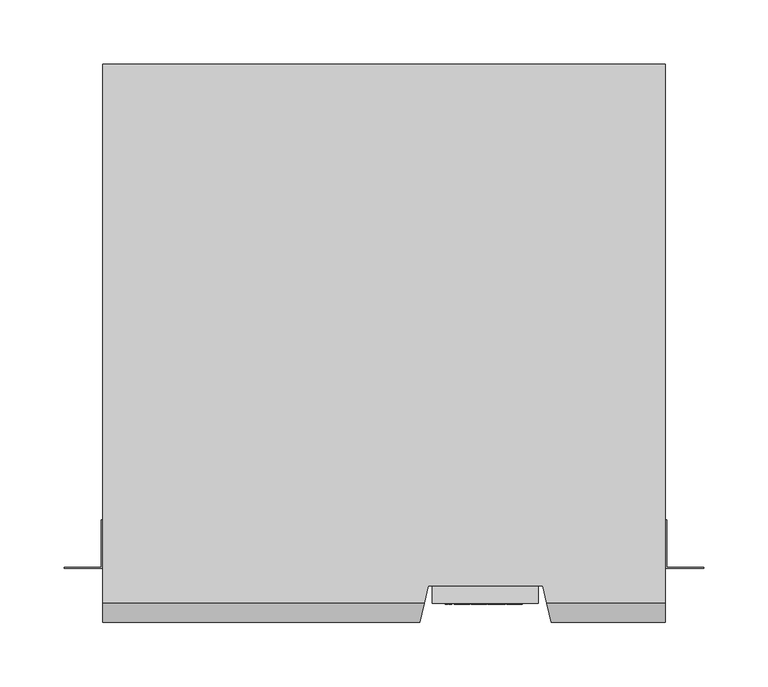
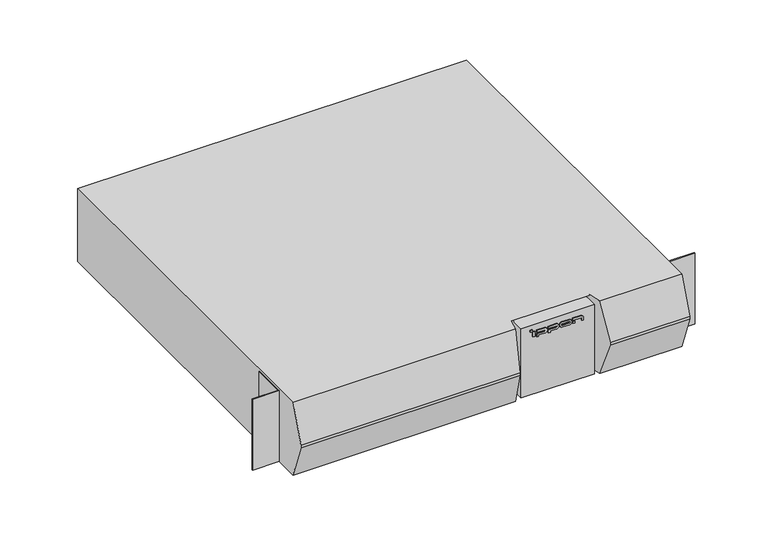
"""IFC4 building model written with IfcOpenShell, lengths in millimetres: proxy geometry, IPPON_ИБП_Innova RT_1000_1500_2000_3000ВА : INNOVA RT 1000 ВА."""

from ifc_helpers import new_model, si_unit, point, frame, frame_2d, origin, place, context, project, spatial, polyline, circle_curve, trimmed, segment, composite_curve, outline, extrude, faceted_brep, source, transform, mapped, element, save


def electrical_equipment_19148581(model_context):
    return source(origin(), model_context, "Body", "SolidModel", [
        extrude(outline(polyline([(49.8281867, 14.0), (47.8281867, 14.0), (47.8281867, 15.0), (49.8281867, 15.0), (49.8281867, 14.0)])), frame((0.0, 0.0, 78.9695835), z_axis=(0.0, 0.0, 1.0), x_axis=(1.0, 0.0, 0.0)), (0.0, 0.0, 1.0), 2.3),
        extrude(outline(polyline([(97.6035474, 14.0), (95.6035474, 14.0), (95.6035474, 15.0), (97.6035474, 15.0), (97.6035474, 14.0)])), frame((0.0, 0.0, 72.9695835), z_axis=(0.0, 0.0, 1.0), x_axis=(1.0, 0.0, 0.0)), (0.0, 0.0, 1.0), 2.2268231),
        extrude(outline(polyline([(52.561435, 14.0), (50.5166676, 14.0), (50.5166676, 15.0), (52.561435, 15.0), (52.561435, 14.0)])), frame((0.0, 0.0, 72.9695835), z_axis=(0.0, 0.0, 1.0), x_axis=(1.0, 0.0, 0.0)), (0.0, 0.0, 1.0), 6.0),
        extrude(outline(composite_curve([segment(polyline([(76.7071435, 54.7758891), (76.7071435, 64.0076464)]), True, "CONTINUOUS"), segment(trimmed(circle_curve(frame_2d((75.8506642, 64.0076464)), 0.8564793), [point((76.7071435, 64.0076464))], [point((74.9941849, 64.0076464))], True, "CARTESIAN"), True, "CONTINUOUS"), segment(polyline([(74.9941849, 64.0076464), (74.9941849, 54.7758891), (71.5036803, 54.7758891), (71.5036803, 56.7758891), (72.9695835, 56.7758891), (72.9695835, 63.8513964)]), True, "CONTINUOUS"), segment(trimmed(circle_curve(frame_2d((75.9695835, 63.8513964)), 3.0), [point((72.9695835, 63.8513964))], [point((78.9695835, 63.8513964))], False, "CARTESIAN"), True, "CONTINUOUS"), segment(polyline([(78.9695835, 63.8513964), (78.9695835, 54.7758891), (76.7071435, 54.7758891)]), True, "CONTINUOUS")], self_intersect=False)), frame((0.0, 14.0, 0.0), z_axis=(0.0, 1.0, 0.0), x_axis=(0.0, 0.0, 1.0)), (0.0, 0.0, 1.0), 1.0),
        extrude(outline(composite_curve([segment(polyline([(76.7071435, 67.9828909), (76.7071435, 77.2146482)]), True, "CONTINUOUS"), segment(trimmed(circle_curve(frame_2d((75.8506642, 77.2146482)), 0.8564793), [point((76.7071435, 77.2146482))], [point((74.9941849, 77.2146482))], True, "CARTESIAN"), True, "CONTINUOUS"), segment(polyline([(74.9941849, 77.2146482), (74.9941849, 67.9828909), (71.5036803, 67.9828909), (71.5036803, 69.9828909), (72.9695835, 69.9828909), (72.9695835, 77.0583982)]), True, "CONTINUOUS"), segment(trimmed(circle_curve(frame_2d((75.9695835, 77.0583982)), 3.0), [point((72.9695835, 77.0583982))], [point((78.9695835, 77.0583982))], False, "CARTESIAN"), True, "CONTINUOUS"), segment(polyline([(78.9695835, 77.0583982), (78.9695835, 67.9828909), (76.7071435, 67.9828909)]), True, "CONTINUOUS")], self_intersect=False)), frame((0.0, 14.0, 0.0), z_axis=(0.0, 1.0, 0.0), x_axis=(0.0, 0.0, 1.0)), (0.0, 0.0, 1.0), 1.0),
        extrude(outline(composite_curve([segment(trimmed(circle_curve(frame_2d((75.9695835, 91.558657)), 3.0), [point((72.9695835, 91.558657))], [point((78.9695835, 91.558657))], False, "CARTESIAN"), True, "CONTINUOUS"), segment(polyline([(78.9695835, 91.558657), (78.9695835, 83.958657)]), True, "CONTINUOUS"), segment(trimmed(circle_curve(frame_2d((75.9695835, 83.958657)), 3.0), [point((78.9695835, 83.958657))], [point((72.9695835, 83.958657))], False, "CARTESIAN"), True, "CONTINUOUS"), segment(polyline([(72.9695835, 83.958657), (72.9695835, 91.558657)]), True, "CONTINUOUS")], self_intersect=False), holes=[composite_curve([segment(polyline([(74.9941849, 91.714907), (74.9941849, 83.802407)]), True, "CONTINUOUS"), segment(trimmed(circle_curve(frame_2d((75.8506642, 83.802407)), 0.8564793), [point((74.9941849, 83.802407))], [point((76.7071435, 83.802407))], True, "CARTESIAN"), True, "CONTINUOUS"), segment(polyline([(76.7071435, 83.802407), (76.7071435, 91.714907)]), True, "CONTINUOUS"), segment(trimmed(circle_curve(frame_2d((75.8506642, 91.714907)), 0.8564793), [point((76.7071435, 91.714907))], [point((74.9941849, 91.714907))], True, "CARTESIAN"), True, "CONTINUOUS")], self_intersect=False)]), frame((0.0, 14.0, 0.0), z_axis=(0.0, 1.0, 0.0), x_axis=(0.0, 0.0, 1.0)), (0.0, 0.0, 1.0), 1.0),
        extrude(outline(composite_curve([segment(polyline([(76.7071435, 95.6035474), (76.7071435, 104.8353046)]), True, "CONTINUOUS"), segment(trimmed(circle_curve(frame_2d((75.8506642, 104.8353046)), 0.8564793), [point((76.7071435, 104.8353046))], [point((75.8506642, 105.6917839))], True, "CARTESIAN"), True, "CONTINUOUS"), segment(polyline([(75.8506642, 105.6917839), (72.9695835, 105.6917839), (72.9695835, 107.6317921), (76.5, 107.6317921)]), True, "CONTINUOUS"), segment(trimmed(circle_curve(frame_2d((75.9695835, 104.6790546)), 3.0), [point((76.5, 107.6317921))], [point((78.9695835, 104.6790546))], False, "CARTESIAN"), True, "CONTINUOUS"), segment(polyline([(78.9695835, 104.6790546), (78.9695835, 95.6035474), (76.7071435, 95.6035474)]), True, "CONTINUOUS")], self_intersect=False)), frame((0.0, 14.0, 0.0), z_axis=(0.0, 1.0, 0.0), x_axis=(0.0, 0.0, 1.0)), (0.0, 0.0, 1.0), 1.0),
        extrude(outline(polyline([(120.25, 15.0), (37.75, 15.0), (37.75, 43.0), (120.25, 43.0), (120.25, 15.0)])), frame((0.0, 0.0, 4.0), z_axis=(0.0, 0.0, 1.0), x_axis=(1.0, 0.0, 0.0)), (0.0, 0.0, 1.0), 82.5),
        faceted_brep([(219.0, 0.0, 43.75), (219.0, 0.0, 46.75), (130.25, 0.0, 46.75), (130.25, 0.0, 43.75), (-219.0, 0.0, 46.75), (-219.0, 0.0, 43.75), (27.75, 0.0, 43.75), (27.75, 0.0, 46.75), (219.0, 15.0, 2.0), (219.0, 435.0, 2.0), (219.0, 435.0, 88.5), (219.0, 15.0, 88.5), (126.7616279, 15.0, 88.5), (-219.0, 15.0, 88.5), (31.2383721, 15.0, 88.5), (-219.0, 435.0, 88.5), (-219.0, 435.0, 2.0), (-219.0, 15.0, 2.0), (126.7616279, 15.0, 2.0), (31.2383721, 15.0, 2.0), (120.25, 43.0, 86.5), (37.75, 43.0, 86.5), (37.75, 43.0, 4.0), (120.25, 43.0, 4.0), (122.25, 34.4, 2.0), (123.5833333, 28.6666667, 88.5), (35.75, 34.4, 2.0), (34.4166667, 28.6666667, 88.5)], [[[0, 1, 2, 3]], [[4, 5, 6, 7]], [[1, 0, 8, 9, 10, 11]], [[1, 11, 12, 2]], [[13, 4, 7, 14]], [[5, 4, 13, 15, 16, 17]], [[8, 0, 3, 18]], [[5, 17, 19, 6]], [[20, 21, 22, 23]], [[20, 23, 24, 18, 3, 2, 12, 25]], [[23, 22, 26, 24]], [[22, 21, 27, 14, 7, 6, 19, 26]], [[21, 20, 25, 27]], [[10, 9, 16, 15]], [[10, 15, 13, 14, 27, 25, 12, 11]], [[16, 9, 8, 18, 24, 26, 19, 17]]]),
        extrude(outline(polyline([(219.0, 42.0), (219.0, 80.0), (220.0, 80.0), (220.0, 43.0), (249.0, 43.0), (249.0, 42.0), (219.0, 42.0)])), frame((0.0, 0.0, 2.0), z_axis=(0.0, 0.0, 1.0), x_axis=(1.0, 0.0, 0.0)), (0.0, 0.0, 1.0), 84.5),
        extrude(outline(polyline([(-219.0, 42.0), (-249.0, 42.0), (-249.0, 43.0), (-220.0, 43.0), (-220.0, 80.0), (-219.0, 80.0), (-219.0, 42.0)])), frame((0.0, 0.0, 2.0), z_axis=(0.0, 0.0, 1.0), x_axis=(1.0, 0.0, 0.0)), (0.0, 0.0, 1.0), 84.5),
    ])


if __name__ == "__main__":
    model = new_model("IFC4")
    model_context = context("Model", 3, world=origin())
    ifc_project = project(units=[si_unit("LENGTHUNIT", "METRE", prefix="MILLI")], contexts=[model_context])
    site = spatial("IfcSite", under=ifc_project)
    building = spatial("IfcBuilding", under=site)
    placement = place(None, origin())
    electrical_equipment_shape = electrical_equipment_19148581(model_context)
    element("IfcBuildingElementProxy", 1, Name="IPPON_ИБП_Innova RT_1000_1500_2000_3000ВА : INNOVA RT 1000 ВА", ObjectType="IPPON_ИБП_Innova RT_1000_1500_2000_3000ВА : INNOVA RT 1000 ВА", at=placement, inside=building, context=model_context, shape_type="MappedRepresentation", body=[
        mapped(electrical_equipment_shape, transform((0.0, 0.0, 0.0), x_axis=(1.0, 0.0, 0.0), y_axis=(0.0, 1.0, 0.0), z_axis=(0.0, 0.0, 1.0))),
    ])
    save(model, "model.ifc")
